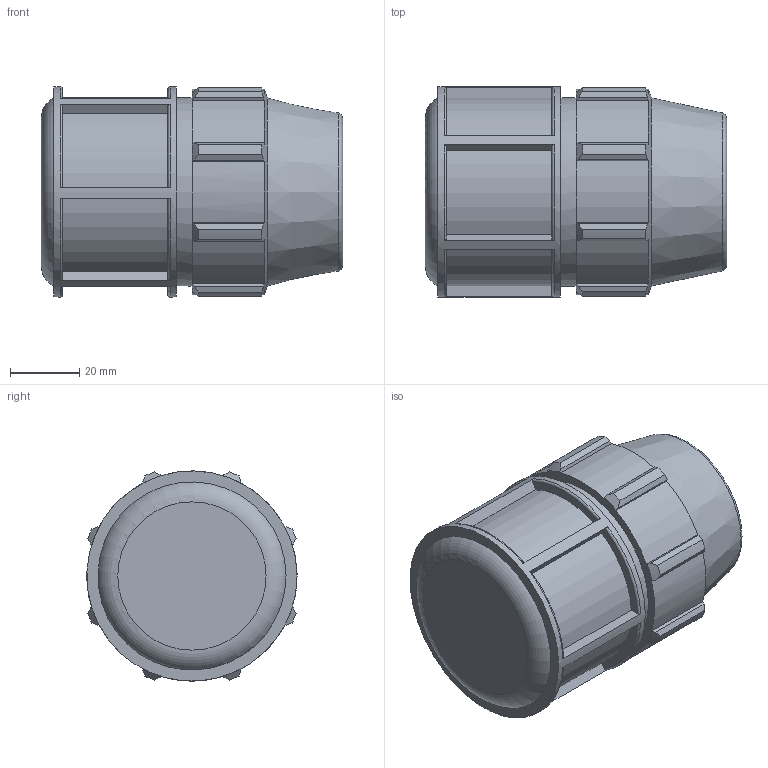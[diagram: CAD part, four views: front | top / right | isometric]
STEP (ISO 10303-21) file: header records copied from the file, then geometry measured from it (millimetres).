
FILE_DESCRIPTION(/* description */ ('PLASSON END PLUG 1'''''),/* implementation_level */ '2;1');
FILE_NAME(/* name */ 'C:\Dropbox\KIMPROJECTS-Inventor 2019\99-16-3568-Processing Inch\ASTM Compression 2021\0712M0\0712M0100.ipt.stp',/* time_stamp */ '2021-08-26T12:33:13+03:00',/* author */ ('Кирилл'),/* organization */ (''),/* preprocessor_version */ 'ST-DEVELOPER v17.2',/* originating_system */ 'Autodesk Inventor 2019',/* authorisation */ '');
FILE_SCHEMA (('AUTOMOTIVE_DESIGN { 1 0 10303 214 3 1 1 }'));
Length unit declared in the file: inch
Products named in the file (1): 0712M0100
Bounding box: 87.12 x 60.78 x 60.81 mm (x, y, z)
Volume: 137367 mm3; surface area: 31973 mm2
Topology: 1 solids, 1 shells, 115 faces, 317 edges, 215 vertices
Faces by surface type: plane 63, cylinder 25, torus 15, cone 12
Full cylindrical faces by diameter (mm): 33.3 x1, 54.407 x1, 60.808 x1
Entity records: 4019 total; most frequent: CARTESIAN_POINT 928, ORIENTED_EDGE 634, DIRECTION 603, EDGE_CURVE 317, AXIS2_PLACEMENT_3D 226, VERTEX_POINT 215, LINE 151, VECTOR 151
